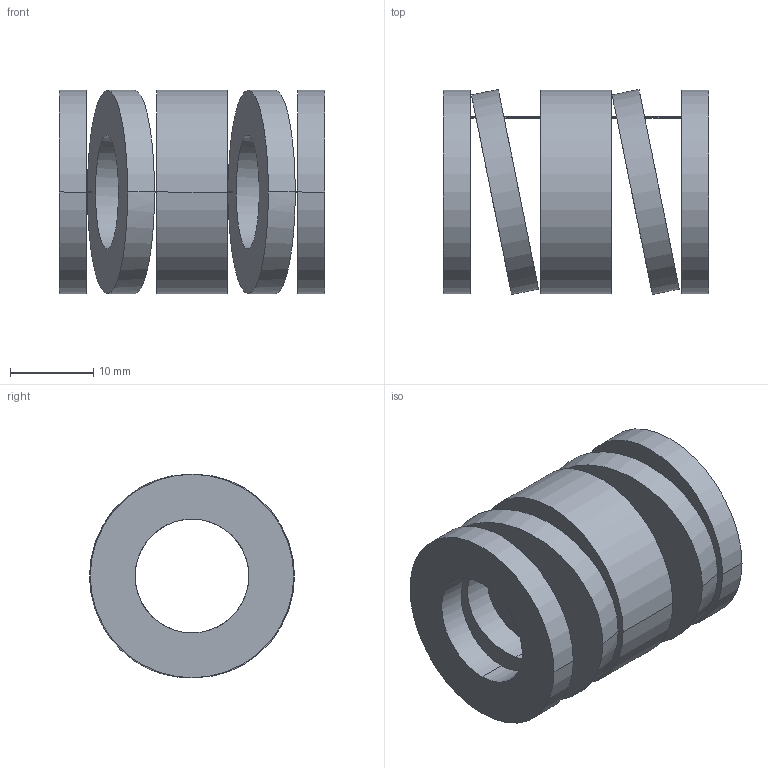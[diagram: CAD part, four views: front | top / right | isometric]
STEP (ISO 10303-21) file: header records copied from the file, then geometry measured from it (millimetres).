
FILE_DESCRIPTION(('CATIA V5 STEP Exchange'),'2;1');
FILE_NAME('C:\Users\Utente\Desktop\IO LAVORO\3D X SITO CF\X SITO\3D files 392B\392-B25-032.stp','2021-08-13T08:05:14+00:00',('none'),('none'),'CATIA Version 5 Release 20 GA (IN-10)','CATIA V5 STEP AP203','none');
FILE_SCHEMA(('CONFIG_CONTROL_DESIGN'));
Length unit declared in the file: millimetre
Products named in the file (1): 392-B25-032
Bounding box: 32 x 24.67 x 24.5 mm (x, y, z)
Volume: 7001.3 mm3; surface area: 5840.4 mm2
Topology: 1 solids, 1 shells, 38 faces, 92 edges, 64 vertices
Faces by surface type: cylinder 28, plane 10
Entity records: 1602 total; most frequent: CARTESIAN_POINT 719, ORIENTED_EDGE 184, DIRECTION 126, EDGE_CURVE 92, VERTEX_POINT 64, AXIS2_PLACEMENT_3D 61, EDGE_LOOP 56, B_SPLINE_CURVE_WITH_KNOTS 42
